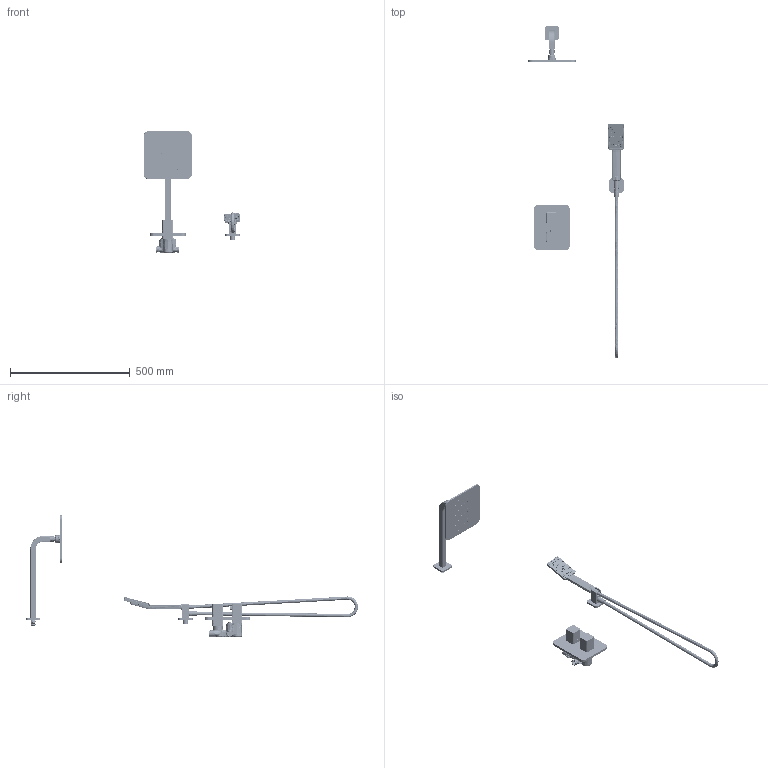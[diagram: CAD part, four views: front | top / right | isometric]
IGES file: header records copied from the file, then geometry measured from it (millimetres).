
Global section: file name: da76cc79-d1a9-4474-99d7-35d9b088f8a5; native system: unknown; preprocessor: unknown; author: unknown; organization: unknown; date: 20200916.125518; units: millimetre
Bounding box: 402.17 x 1385.43 x 508.25 mm (x, y, z)
Volume: 942889 mm3; surface area: 782662 mm2
Topology: 112 solids, 112 shells, 8896 faces, 23659 edges, 15255 vertices
Faces by surface type: bspline 8896
